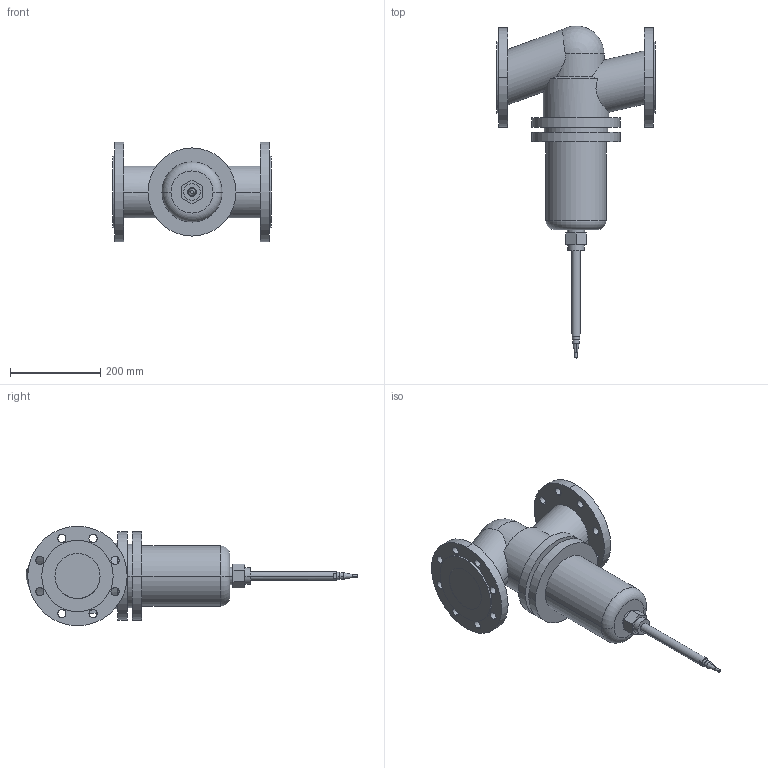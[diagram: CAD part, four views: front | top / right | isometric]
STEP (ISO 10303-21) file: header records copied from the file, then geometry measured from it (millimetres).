
FILE_DESCRIPTION(('CoCreate Modeling STEP Export'),'2;1');
FILE_NAME('c000004774.stp','2011-09-21T 8:39:22',(''),(''),'CoCreate Modeling STEP processor for AP214 (Solid Model)','CoCreate Modeling 17.0 01-Apr-2010 (C) Parametric Technology GmbH','');
FILE_SCHEMA(('AUTOMOTIVE_DESIGN { 1 0 10303 214 1 1 1 1 }'));
Length unit declared in the file: millimetre
Products named in the file (1): 1
Bounding box: 350 x 734.91 x 220 mm (x, y, z)
Volume: 10449840.7 mm3; surface area: 514498.6 mm2
Topology: 1 solids, 1 shells, 124 faces, 307 edges, 202 vertices
Faces by surface type: cylinder 72, plane 44, cone 4, torus 2, sphere 2
Entity records: 4513 total; most frequent: CARTESIAN_POINT 824, ORIENTED_EDGE 610, DIRECTION 469, EDGE_CURVE 305, VERTEX_POINT 202, EDGE_LOOP 175, AXIS2_PLACEMENT_3D 168, VECTOR 133
